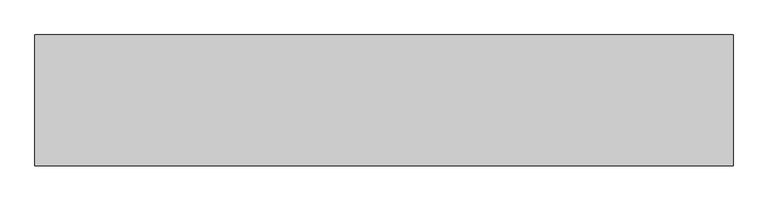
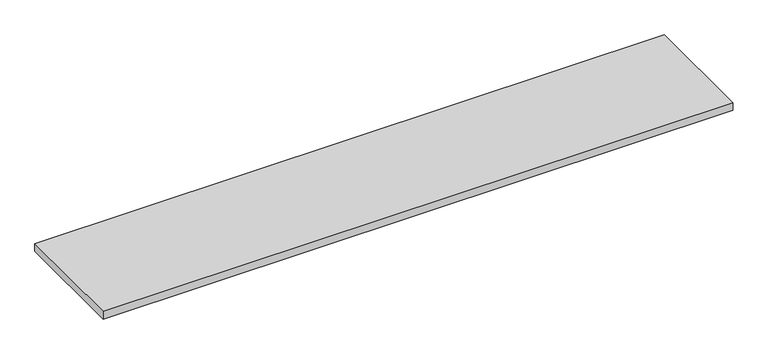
"""IFC4 building model written with IfcOpenShell, lengths in millimetres: furniture geometry, Geiger_GeigerOneCasegoods_CredenzaTopDeskHeightPlain : Veneer 96Wx 18Dx 1.25H."""

from ifc_helpers import new_model, si_unit, origin, origin_with_axes, place, context, project, spatial, polyline, outline, extrude, source, transform, mapped, element, save


def furniture_9cbfd142(model_context):
    return source(origin(), model_context, "Body", "SweptSolid", [
        extrude(outline(polyline([(2438.4, 0.0), (2438.4, -457.2), (0.0, -457.2), (0.0, 0.0), (2438.4, 0.0)])), origin_with_axes(), (0.0, 0.0, 1.0), 31.75),
    ])


if __name__ == "__main__":
    model = new_model("IFC4")
    model_context = context("Model", 3, world=origin())
    ifc_project = project(units=[si_unit("LENGTHUNIT", "METRE", prefix="MILLI")], contexts=[model_context])
    site = spatial("IfcSite", under=ifc_project)
    building = spatial("IfcBuilding", under=site)
    placement = place(None, origin())
    furniture_shape = furniture_9cbfd142(model_context)
    element("IfcFurniture", 1, ObjectType="Geiger_GeigerOneCasegoods_CredenzaTopDeskHeightPlain : Veneer 96Wx 18Dx 1.25H", at=placement, inside=building, context=model_context, shape_type="MappedRepresentation", body=[
        mapped(furniture_shape, transform((0.0, 0.0, 0.0), x_axis=(1.0, 0.0, 0.0), y_axis=(0.0, 1.0, 0.0), z_axis=(0.0, 0.0, 1.0))),
    ])
    save(model, "model.ifc")
